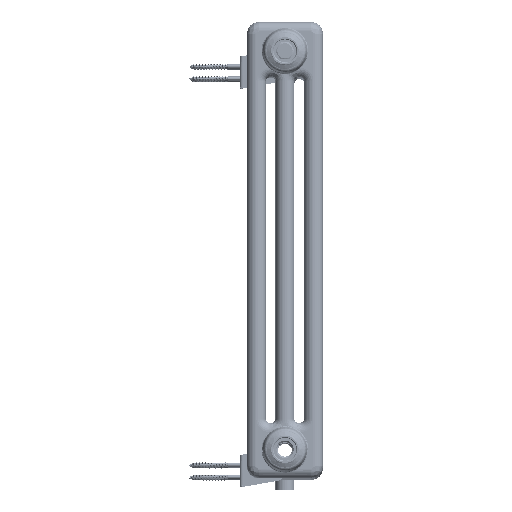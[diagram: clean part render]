
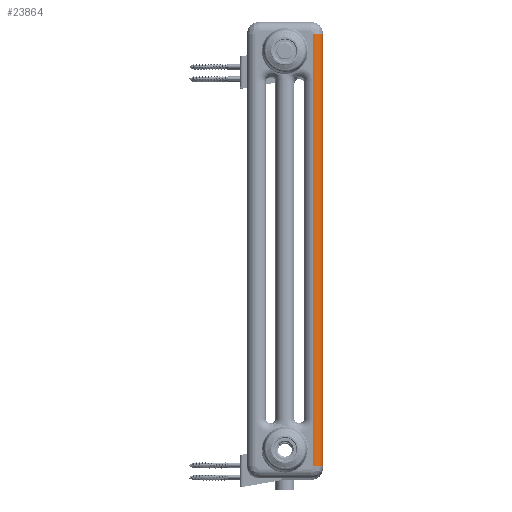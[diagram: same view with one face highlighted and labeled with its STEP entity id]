
A CAD part, top view. The second image highlights one B-rep face of the part: STEP entity #23864.
In plain terms, the highlighted cylindrical face has radius 12.5 mm (diameter 25 mm), a partial arc.
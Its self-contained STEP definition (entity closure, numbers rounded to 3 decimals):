
#12565=CIRCLE('',#157645,12.5);
#12589=CIRCLE('',#157682,12.5);
#23864=ADVANCED_FACE('',(#35579),#29339,.T.);
#29339=CYLINDRICAL_SURFACE('',#157683,12.5);
#35579=FACE_OUTER_BOUND('',#45335,.T.);
#45335=EDGE_LOOP('',(#84801,#84802,#84803,#84804,#84805,#84806,#84807,#84808));
#52484=LINE('',#403722,#57443);
#52485=LINE('',#403745,#57444);
#52494=LINE('',#403824,#57453);
#52495=LINE('',#403825,#57454);
#52496=LINE('',#403827,#57455);
#52497=LINE('',#403831,#57456);
#57443=VECTOR('',#185503,1.);
#57444=VECTOR('',#185512,1.);
#57453=VECTOR('',#185589,1.);
#57454=VECTOR('',#185590,1.);
#57455=VECTOR('',#185593,1.);
#57456=VECTOR('',#185596,1.);
#84801=ORIENTED_EDGE('',*,*,#131169,.F.);
#84802=ORIENTED_EDGE('',*,*,#131170,.F.);
#84803=ORIENTED_EDGE('',*,*,#131171,.F.);
#84804=ORIENTED_EDGE('',*,*,#131168,.T.);
#84805=ORIENTED_EDGE('',*,*,#131136,.T.);
#84806=ORIENTED_EDGE('',*,*,#131134,.T.);
#84807=ORIENTED_EDGE('',*,*,#131132,.T.);
#84808=ORIENTED_EDGE('',*,*,#131167,.T.);
#112623=VERTEX_POINT('',#403715);
#112624=VERTEX_POINT('',#403719);
#112625=VERTEX_POINT('',#403723);
#112626=VERTEX_POINT('',#403727);
#112645=VERTEX_POINT('',#403821);
#112646=VERTEX_POINT('',#403823);
#112647=VERTEX_POINT('',#403828);
#112648=VERTEX_POINT('',#403830);
#131132=EDGE_CURVE('',#112625,#112623,#52484,.T.);
#131134=EDGE_CURVE('',#112626,#112625,#12565,.T.);
#131136=EDGE_CURVE('',#112624,#112626,#52485,.T.);
#131167=EDGE_CURVE('',#112623,#112646,#52494,.T.);
#131168=EDGE_CURVE('',#112645,#112624,#52495,.T.);
#131169=EDGE_CURVE('',#112647,#112646,#52496,.T.);
#131170=EDGE_CURVE('',#112648,#112647,#12589,.T.);
#131171=EDGE_CURVE('',#112645,#112648,#52497,.T.);
#157645=AXIS2_PLACEMENT_3D('',#403726,#185508,#185509);
#157682=AXIS2_PLACEMENT_3D('',#403829,#185594,#185595);
#157683=AXIS2_PLACEMENT_3D('',#403832,#185597,#185598);
#185503=DIRECTION('',(0.,1.,0.));
#185508=DIRECTION('',(0.,1.,0.));
#185509=DIRECTION('',(0.,0.,1.));
#185512=DIRECTION('',(0.,-1.,0.));
#185589=DIRECTION('',(0.,1.,0.));
#185590=DIRECTION('',(0.,-1.,0.));
#185593=DIRECTION('',(0.,-1.,0.));
#185594=DIRECTION('',(0.,1.,0.));
#185595=DIRECTION('',(0.,0.,1.));
#185596=DIRECTION('',(0.,1.,0.));
#185597=DIRECTION('',(0.,-1.,0.));
#185598=DIRECTION('',(0.,0.,1.));
#403715=CARTESIAN_POINT('',(87.5,78.,145.));
#403719=CARTESIAN_POINT('',(87.5,78.,170.));
#403722=CARTESIAN_POINT('',(87.5,15.5,145.));
#403723=CARTESIAN_POINT('',(87.5,15.5,145.));
#403726=CARTESIAN_POINT('',(87.5,15.5,157.5));
#403727=CARTESIAN_POINT('',(87.5,15.5,170.));
#403745=CARTESIAN_POINT('',(87.5,78.,170.));
#403821=CARTESIAN_POINT('',(87.5,522.,170.));
#403823=CARTESIAN_POINT('',(87.5,522.,145.));
#403824=CARTESIAN_POINT('',(87.5,78.,145.));
#403825=CARTESIAN_POINT('',(87.5,522.,170.));
#403827=CARTESIAN_POINT('',(87.5,584.5,145.));
#403828=CARTESIAN_POINT('',(87.5,584.5,145.));
#403829=CARTESIAN_POINT('',(87.5,584.5,157.5));
#403830=CARTESIAN_POINT('',(87.5,584.5,170.));
#403831=CARTESIAN_POINT('',(87.5,522.,170.));
#403832=CARTESIAN_POINT('',(87.5,584.5,157.5));
